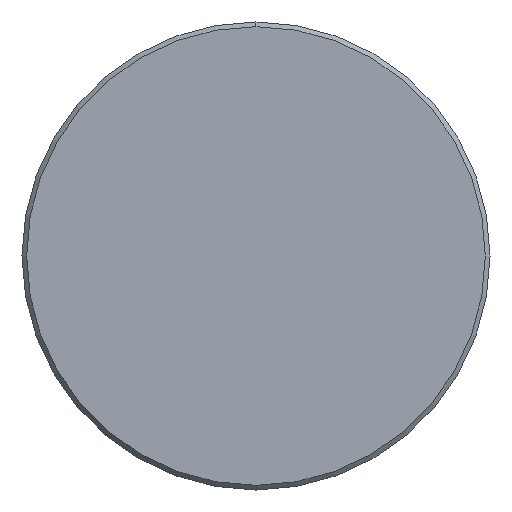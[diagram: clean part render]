
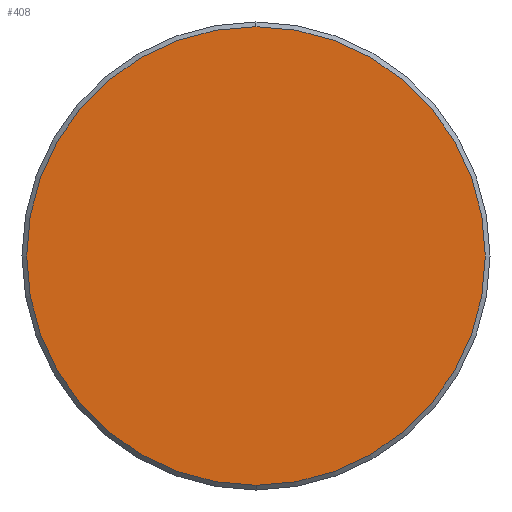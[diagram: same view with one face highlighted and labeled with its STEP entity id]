
A CAD part, left-side view. The second image highlights one B-rep face of the part: STEP entity #408.
In plain terms, the highlighted planar face has unit normal (-1, 0, 0).
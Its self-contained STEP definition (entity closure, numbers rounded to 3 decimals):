
#59 = AXIS2_PLACEMENT_3D ( 'NONE', #515, #286, #460 ) ;
#87 = CIRCLE ( 'NONE', #91, 14.7 ) ;
#91 = AXIS2_PLACEMENT_3D ( 'NONE', #266, #391, #219 ) ;
#117 = PLANE ( 'NONE',  #59 ) ;
#142 = CARTESIAN_POINT ( 'NONE',  ( 0., 0., 14.7 ) ) ;
#154 = ORIENTED_EDGE ( 'NONE', *, *, #487, .T. ) ;
#155 = VERTEX_POINT ( 'NONE', #142 ) ;
#171 = VERTEX_POINT ( 'NONE', #644 ) ;
#219 = DIRECTION ( 'NONE',  ( 0., 0., 1. ) ) ;
#266 = CARTESIAN_POINT ( 'NONE',  ( 0., 0., 0. ) ) ;
#285 = EDGE_CURVE ( 'NONE', #171, #155, #87, .T. ) ;
#286 = DIRECTION ( 'NONE',  ( 1., 0., 0. ) ) ;
#391 = DIRECTION ( 'NONE',  ( -1., 0., 0. ) ) ;
#408 = ADVANCED_FACE ( 'NONE', ( #415 ), #117, .F. ) ;
#415 = FACE_OUTER_BOUND ( 'NONE', #427, .T. ) ;
#427 = EDGE_LOOP ( 'NONE', ( #576, #154 ) ) ;
#460 = DIRECTION ( 'NONE',  ( 0., 0., -1. ) ) ;
#483 = AXIS2_PLACEMENT_3D ( 'NONE', #629, #528, #522 ) ;
#487 = EDGE_CURVE ( 'NONE', #155, #171, #625, .T. ) ;
#515 = CARTESIAN_POINT ( 'NONE',  ( 0., 0., 0. ) ) ;
#522 = DIRECTION ( 'NONE',  ( 0., 0., 1. ) ) ;
#528 = DIRECTION ( 'NONE',  ( -1., 0., 0. ) ) ;
#576 = ORIENTED_EDGE ( 'NONE', *, *, #285, .T. ) ;
#625 = CIRCLE ( 'NONE', #483, 14.7 ) ;
#629 = CARTESIAN_POINT ( 'NONE',  ( 0., 0., 0. ) ) ;
#644 = CARTESIAN_POINT ( 'NONE',  ( 0., 0., -14.7 ) ) ;
